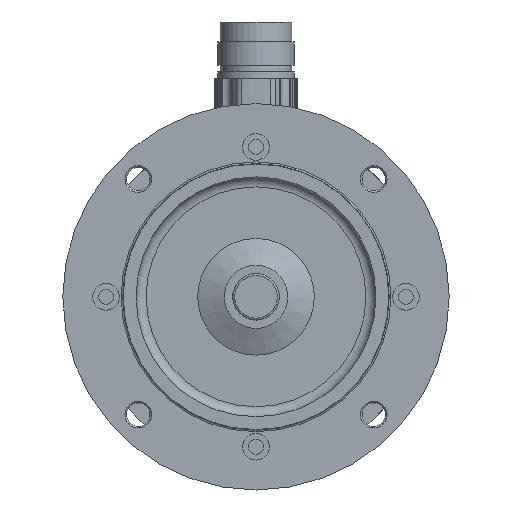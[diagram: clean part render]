
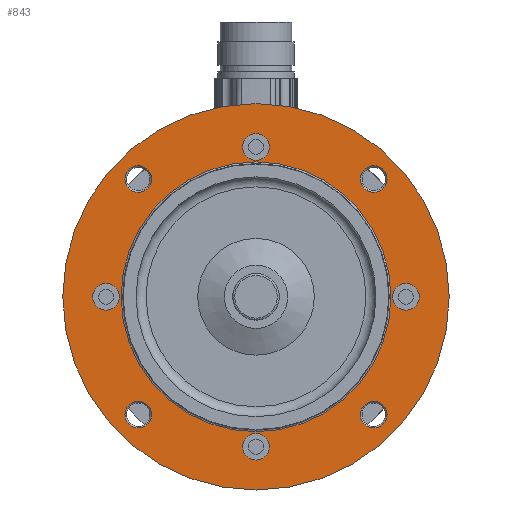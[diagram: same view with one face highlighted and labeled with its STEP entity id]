
A CAD part, front view. The second image highlights one B-rep face of the part: STEP entity #843.
In plain terms, the highlighted planar face has unit normal (0, -1, 0).
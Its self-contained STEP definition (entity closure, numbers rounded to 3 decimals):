
#574=PLANE('',#4272);
#656=FACE_OUTER_BOUND('',#1625,.T.);
#843=ADVANCED_FACE('',(#1292,#1293,#1294,#1295,#1296,#1297,#1298,#1299,#1300,
#656),#574,.T.);
#1292=FACE_BOUND('',#1616,.T.);
#1293=FACE_BOUND('',#1617,.T.);
#1294=FACE_BOUND('',#1618,.T.);
#1295=FACE_BOUND('',#1619,.T.);
#1296=FACE_BOUND('',#1620,.T.);
#1297=FACE_BOUND('',#1621,.T.);
#1298=FACE_BOUND('',#1622,.T.);
#1299=FACE_BOUND('',#1623,.T.);
#1300=FACE_BOUND('',#1624,.T.);
#1616=EDGE_LOOP('',(#2122));
#1617=EDGE_LOOP('',(#2123));
#1618=EDGE_LOOP('',(#2124));
#1619=EDGE_LOOP('',(#2125));
#1620=EDGE_LOOP('',(#2126));
#1621=EDGE_LOOP('',(#2127));
#1622=EDGE_LOOP('',(#2128));
#1623=EDGE_LOOP('',(#2129));
#1624=EDGE_LOOP('',(#2130));
#1625=EDGE_LOOP('',(#2131));
#2122=ORIENTED_EDGE('',*,*,#3435,.T.);
#2123=ORIENTED_EDGE('',*,*,#3436,.T.);
#2124=ORIENTED_EDGE('',*,*,#3437,.T.);
#2125=ORIENTED_EDGE('',*,*,#3438,.T.);
#2126=ORIENTED_EDGE('',*,*,#3439,.T.);
#2127=ORIENTED_EDGE('',*,*,#3440,.T.);
#2128=ORIENTED_EDGE('',*,*,#3441,.T.);
#2129=ORIENTED_EDGE('',*,*,#3442,.T.);
#2130=ORIENTED_EDGE('',*,*,#3443,.T.);
#2131=ORIENTED_EDGE('',*,*,#3444,.F.);
#3055=VERTEX_POINT('',#6343);
#3056=VERTEX_POINT('',#6345);
#3057=VERTEX_POINT('',#6347);
#3058=VERTEX_POINT('',#6349);
#3059=VERTEX_POINT('',#6351);
#3060=VERTEX_POINT('',#6353);
#3061=VERTEX_POINT('',#6355);
#3062=VERTEX_POINT('',#6357);
#3063=VERTEX_POINT('',#6359);
#3064=VERTEX_POINT('',#6361);
#3435=EDGE_CURVE('',#3055,#3055,#3902,.T.);
#3436=EDGE_CURVE('',#3056,#3056,#3903,.T.);
#3437=EDGE_CURVE('',#3057,#3057,#3904,.T.);
#3438=EDGE_CURVE('',#3058,#3058,#3905,.T.);
#3439=EDGE_CURVE('',#3059,#3059,#3906,.T.);
#3440=EDGE_CURVE('',#3060,#3060,#3907,.T.);
#3441=EDGE_CURVE('',#3061,#3061,#3908,.T.);
#3442=EDGE_CURVE('',#3062,#3062,#3909,.T.);
#3443=EDGE_CURVE('',#3063,#3063,#3910,.T.);
#3444=EDGE_CURVE('',#3064,#3064,#3911,.T.);
#3902=CIRCLE('',#4262,40.5);
#3903=CIRCLE('',#4263,4.);
#3904=CIRCLE('',#4264,4.);
#3905=CIRCLE('',#4265,4.);
#3906=CIRCLE('',#4266,4.);
#3907=CIRCLE('',#4267,4.);
#3908=CIRCLE('',#4268,4.);
#3909=CIRCLE('',#4269,4.);
#3910=CIRCLE('',#4270,4.);
#3911=CIRCLE('',#4271,58.);
#4262=AXIS2_PLACEMENT_3D('',#6342,#4929,#4930);
#4263=AXIS2_PLACEMENT_3D('',#6344,#4931,#4932);
#4264=AXIS2_PLACEMENT_3D('',#6346,#4933,#4934);
#4265=AXIS2_PLACEMENT_3D('',#6348,#4935,#4936);
#4266=AXIS2_PLACEMENT_3D('',#6350,#4937,#4938);
#4267=AXIS2_PLACEMENT_3D('',#6352,#4939,#4940);
#4268=AXIS2_PLACEMENT_3D('',#6354,#4941,#4942);
#4269=AXIS2_PLACEMENT_3D('',#6356,#4943,#4944);
#4270=AXIS2_PLACEMENT_3D('',#6358,#4945,#4946);
#4271=AXIS2_PLACEMENT_3D('',#6360,#4947,#4948);
#4272=AXIS2_PLACEMENT_3D('',#6362,#4949,#4950);
#4929=DIRECTION('',(0.,1.,0.));
#4930=DIRECTION('',(0.,0.,-1.));
#4931=DIRECTION('',(0.,1.,0.));
#4932=DIRECTION('',(-1.,0.,0.));
#4933=DIRECTION('',(0.,1.,0.));
#4934=DIRECTION('',(0.,0.,-1.));
#4935=DIRECTION('',(0.,1.,0.));
#4936=DIRECTION('',(1.,0.,0.));
#4937=DIRECTION('',(0.,1.,0.));
#4938=DIRECTION('',(0.,0.,1.));
#4939=DIRECTION('',(0.,1.,0.));
#4940=DIRECTION('',(0.,0.,-1.));
#4941=DIRECTION('',(0.,1.,0.));
#4942=DIRECTION('',(0.,0.,-1.));
#4943=DIRECTION('',(0.,1.,0.));
#4944=DIRECTION('',(0.,0.,-1.));
#4945=DIRECTION('',(0.,1.,0.));
#4946=DIRECTION('',(0.,0.,-1.));
#4947=DIRECTION('',(0.,1.,0.));
#4948=DIRECTION('',(0.,0.,1.));
#4949=DIRECTION('',(0.,-1.,0.));
#4950=DIRECTION('',(0.,0.,-1.));
#6342=CARTESIAN_POINT('',(0.,0.,0.));
#6343=CARTESIAN_POINT('',(0.,0.,-40.5));
#6344=CARTESIAN_POINT('',(-45.,0.,0.));
#6345=CARTESIAN_POINT('',(-49.,0.,0.));
#6346=CARTESIAN_POINT('',(0.,0.,-45.));
#6347=CARTESIAN_POINT('',(0.,0.,-49.));
#6348=CARTESIAN_POINT('',(45.,0.,0.));
#6349=CARTESIAN_POINT('',(49.,0.,0.));
#6350=CARTESIAN_POINT('',(0.,0.,45.));
#6351=CARTESIAN_POINT('',(0.,0.,49.));
#6352=CARTESIAN_POINT('',(35.355,0.,-35.355));
#6353=CARTESIAN_POINT('',(35.355,0.,-39.355));
#6354=CARTESIAN_POINT('',(35.355,0.,35.355));
#6355=CARTESIAN_POINT('',(35.355,0.,31.355));
#6356=CARTESIAN_POINT('',(-35.355,0.,35.355));
#6357=CARTESIAN_POINT('',(-35.355,0.,31.355));
#6358=CARTESIAN_POINT('',(-35.355,0.,-35.355));
#6359=CARTESIAN_POINT('',(-35.355,0.,-39.355));
#6360=CARTESIAN_POINT('',(0.,0.,0.));
#6361=CARTESIAN_POINT('',(0.,0.,58.));
#6362=CARTESIAN_POINT('',(0.,0.,0.));
